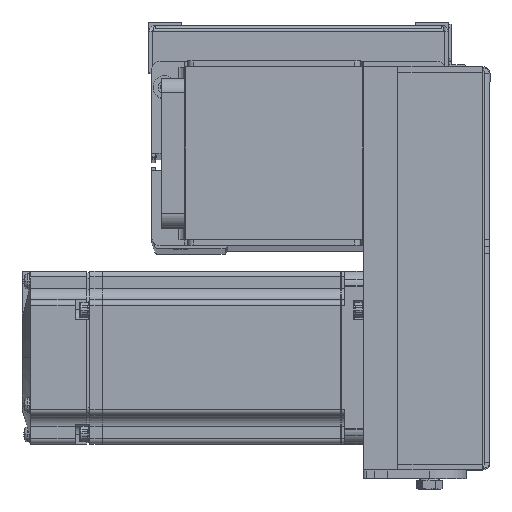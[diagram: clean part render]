
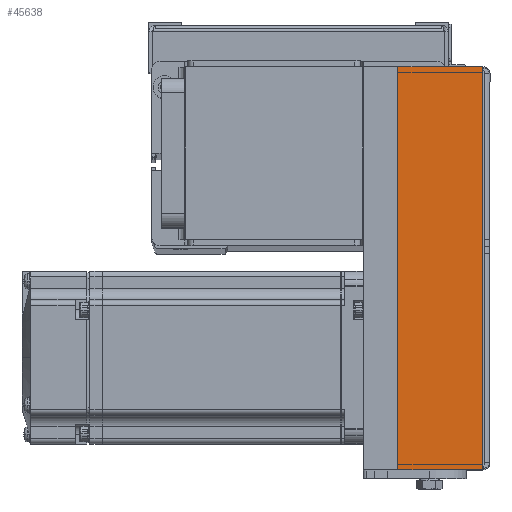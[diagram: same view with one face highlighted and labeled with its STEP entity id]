
A CAD part, top view. The second image highlights one B-rep face of the part: STEP entity #45638.
In plain terms, the highlighted planar face has unit normal (0, 0, 1).
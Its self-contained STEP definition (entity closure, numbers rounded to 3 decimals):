
#1388 = LINE ( 'NONE', #20613, #14077 ) ;
#1812 = ORIENTED_EDGE ( 'NONE', *, *, #10447, .T. ) ;
#6658 = FACE_OUTER_BOUND ( 'NONE', #30169, .T. ) ;
#6802 = ORIENTED_EDGE ( 'NONE', *, *, #23532, .T. ) ;
#8017 = DIRECTION ( 'NONE',  ( 0., 1., 0. ) ) ;
#10447 = EDGE_CURVE ( 'NONE', #29955, #16692, #43062, .T. ) ;
#13430 = LINE ( 'NONE', #28754, #48657 ) ;
#14077 = VECTOR ( 'NONE', #32580, 1000. ) ;
#14242 = EDGE_CURVE ( 'NONE', #29955, #24994, #1388, .T. ) ;
#14714 = DIRECTION ( 'NONE',  ( 0., -1., 0. ) ) ;
#15567 = LINE ( 'NONE', #27782, #20916 ) ;
#16112 = EDGE_CURVE ( 'NONE', #24994, #38173, #15567, .T. ) ;
#16692 = VERTEX_POINT ( 'NONE', #45608 ) ;
#17841 = DIRECTION ( 'NONE',  ( -1., 0., 0. ) ) ;
#17980 = VECTOR ( 'NONE', #23306, 1000. ) ;
#20613 = CARTESIAN_POINT ( 'NONE',  ( -70., -29.5, 31. ) ) ;
#20860 = ORIENTED_EDGE ( 'NONE', *, *, #16112, .F. ) ;
#20916 = VECTOR ( 'NONE', #8017, 1000. ) ;
#21157 = CARTESIAN_POINT ( 'NONE',  ( -70., -29.5, 31. ) ) ;
#22510 = CARTESIAN_POINT ( 'NONE',  ( 0., -30., 31. ) ) ;
#23306 = DIRECTION ( 'NONE',  ( 0., 1., 0. ) ) ;
#23532 = EDGE_CURVE ( 'NONE', #16692, #38173, #13430, .T. ) ;
#24994 = VERTEX_POINT ( 'NONE', #21157 ) ;
#25764 = AXIS2_PLACEMENT_3D ( 'NONE', #22510, #50340, #14714 ) ;
#27204 = PLANE ( 'NONE',  #25764 ) ;
#27782 = CARTESIAN_POINT ( 'NONE',  ( -70., -29.5, 31. ) ) ;
#28754 = CARTESIAN_POINT ( 'NONE',  ( 0., 0., 31. ) ) ;
#29955 = VERTEX_POINT ( 'NONE', #45997 ) ;
#30169 = EDGE_LOOP ( 'NONE', ( #32299, #1812, #6802, #20860 ) ) ;
#31346 = CARTESIAN_POINT ( 'NONE',  ( 70., -29.5, 31. ) ) ;
#32299 = ORIENTED_EDGE ( 'NONE', *, *, #14242, .F. ) ;
#32580 = DIRECTION ( 'NONE',  ( -1., 0., 0. ) ) ;
#38173 = VERTEX_POINT ( 'NONE', #50774 ) ;
#43062 = LINE ( 'NONE', #31346, #17980 ) ;
#45608 = CARTESIAN_POINT ( 'NONE',  ( 70., 0., 31. ) ) ;
#45638 = ADVANCED_FACE ( 'NONE', ( #6658 ), #27204, .F. ) ;
#45997 = CARTESIAN_POINT ( 'NONE',  ( 70., -29.5, 31. ) ) ;
#48657 = VECTOR ( 'NONE', #17841, 1000. ) ;
#50340 = DIRECTION ( 'NONE',  ( 0., 0., -1. ) ) ;
#50774 = CARTESIAN_POINT ( 'NONE',  ( -70., 0., 31. ) ) ;
